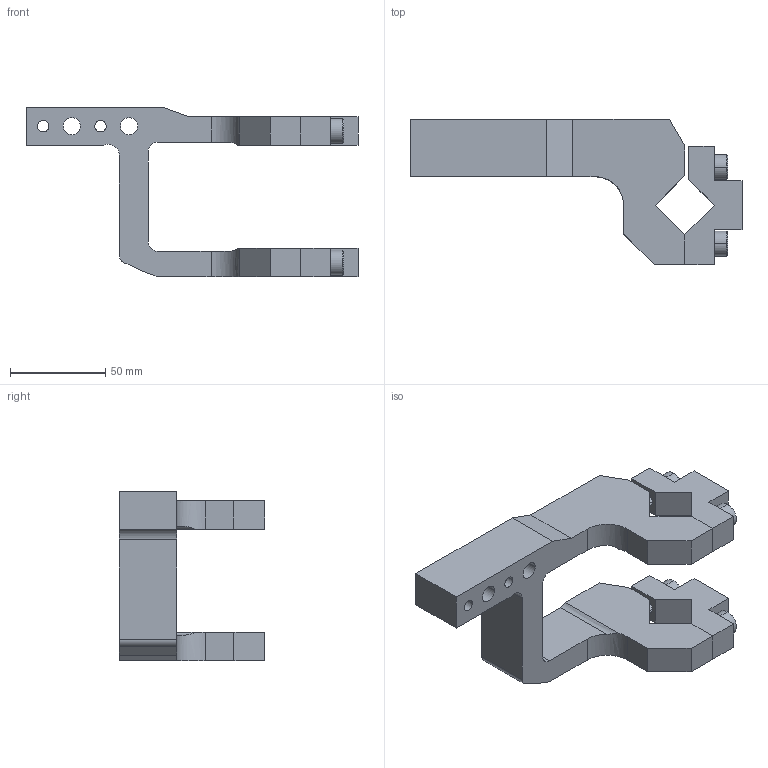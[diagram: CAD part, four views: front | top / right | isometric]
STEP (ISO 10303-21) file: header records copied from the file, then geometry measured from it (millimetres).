
FILE_DESCRIPTION((''),'2;1');
FILE_NAME('S:\Matthew\Step Files\XM Clamp Arms\XJ63-CAL-01.stp','2006-06-28T08:16:15',('Matthew'),(''),'Autodesk Inventor 8','Autodesk Inventor 8','');
FILE_SCHEMA(('AUTOMOTIVE_DESIGN { 1 0 10303 214 1 1 1 1 }'));
Length unit declared in the file: millimetre
Products named in the file (4): XJ63-CAL-01; XJ63-CAL-011; XJ63-CAL-012; XJ63-CAL-013
Assembly tree (3 placements, depth 2):
  XJ63-CAL-01
    XJ63-CAL-011
    XJ63-CAL-012
    XJ63-CAL-013
Bounding box: 174 x 76 x 89 mm (x, y, z)
Volume: 193282.3 mm3; surface area: 51698.5 mm2
Topology: 3 solids, 3 shells, 150 faces, 380 edges, 244 vertices
Faces by surface type: plane 62, bspline 48, cylinder 24, cone 16
Entity records: 4765 total; most frequent: CARTESIAN_POINT 1155, ORIENTED_EDGE 744, DIRECTION 676, EDGE_CURVE 372, VECTOR 282, LINE 282, VERTEX_POINT 244, AXIS2_PLACEMENT_3D 197
